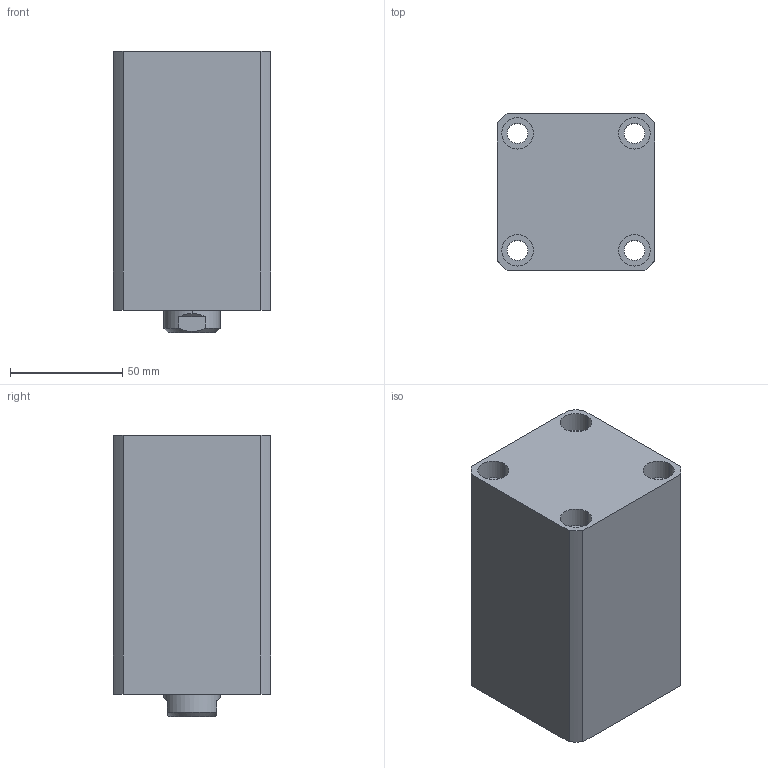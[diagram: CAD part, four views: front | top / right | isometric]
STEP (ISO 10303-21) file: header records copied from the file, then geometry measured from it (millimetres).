
FILE_DESCRIPTION (( 'STEP AP214' ), '1' );
FILE_NAME ('chtb-sd40x60n_asm.STEP', '2018-06-07T07:51:45', ( 'Windows' ), ( 'Microsoft' ), 'SwSTEP 2.0', 'SolidWorks 2015', '' );
FILE_SCHEMA (( 'AUTOMOTIVE_DESIGN' ));
Length unit declared in the file: millimetre
Products named in the file (4): CHTB-SD40QG; CHTB-SD40X60NHSG; CHTB-SD40X60NBT; chtb-sd40x60n_asm
Assembly tree (3 placements, depth 2):
  chtb-sd40x60n_asm
    CHTB-SD40X60NBT
    CHTB-SD40X60NHSG
    CHTB-SD40QG
Bounding box: 70 x 70 x 125 mm (x, y, z)
Volume: 469668.6 mm3; surface area: 94708.1 mm2
Topology: 3 solids, 3 shells, 157 faces, 401 edges, 266 vertices
Faces by surface type: cylinder 80, plane 36, torus 14, bspline 14, cone 13
Entity records: 9977 total; most frequent: CARTESIAN_POINT 6053, ORIENTED_EDGE 790, DIRECTION 768, EDGE_CURVE 395, AXIS2_PLACEMENT_3D 328, VERTEX_POINT 266, EDGE_LOOP 193, CIRCLE 179
